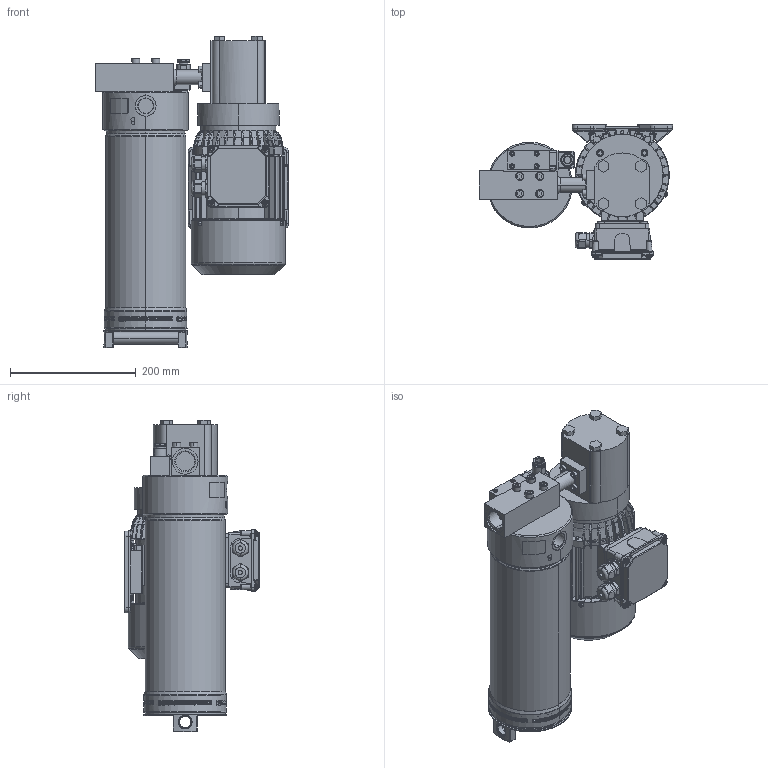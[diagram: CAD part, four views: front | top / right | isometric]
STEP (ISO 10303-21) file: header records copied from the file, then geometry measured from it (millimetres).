
FILE_DESCRIPTION((''),'2;1');
FILE_NAME('PRT0001','2016-07-13T',('r.stiegele'),(''),'PRO/ENGINEER BY PARAMETRIC TECHNOLOGY CORPORATION, 2015110','PRO/ENGINEER BY PARAMETRIC TECHNOLOGY CORPORATION, 2015110','');
FILE_SCHEMA(('AUTOMOTIVE_DESIGN { 1 0 10303 214 1 1 1 1 }'));
Length unit declared in the file: millimetre
Products named in the file (1): PRT0001
Bounding box: 307.5 x 213.5 x 496.5 mm (x, y, z)
Volume: 10305156.6 mm3; surface area: 654997.1 mm2
Topology: 2 solids, 16 shells, 3234 faces, 9906 edges, 6747 vertices
Faces by surface type: plane 1464, cylinder 1049, bspline 259, cone 237, torus 136, sphere 33, revolution 28, extrusion 28
Entity records: 185001 total; most frequent: CARTESIAN_POINT 43436, ORIENTED_EDGE 19694, DIRECTION 17922, PRESENTATION_STYLE_ASSIGNMENT 13139, STYLED_ITEM 9905, CURVE_STYLE 9903, EDGE_CURVE 9847, VERTEX_POINT 6747
